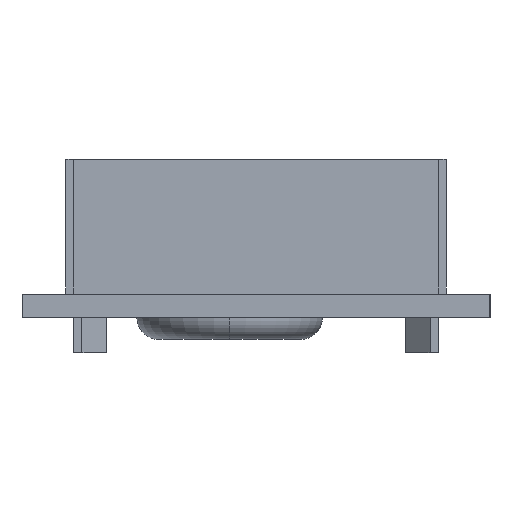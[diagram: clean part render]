
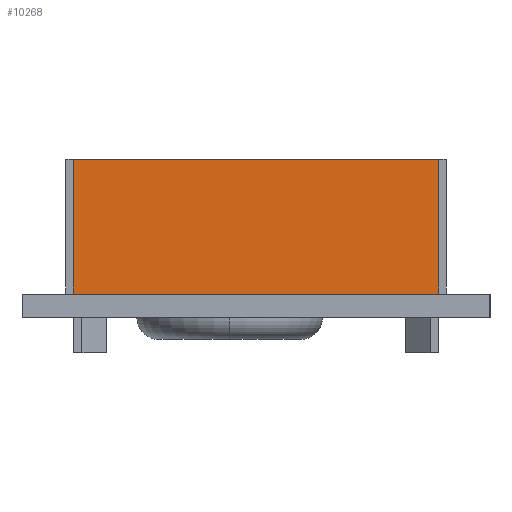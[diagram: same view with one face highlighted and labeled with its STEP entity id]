
A CAD part, left-side view. The second image highlights one B-rep face of the part: STEP entity #10268.
In plain terms, the highlighted planar face has unit normal (-1, 0, 0).
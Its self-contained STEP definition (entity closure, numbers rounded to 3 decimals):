
#2 = CARTESIAN_POINT ( 'NONE',  ( -22.1, -12.5, 0.8 ) ) ;
#246 = VECTOR ( 'NONE', #10217, 1000. ) ;
#280 = DIRECTION ( 'NONE',  ( 0., 0., -1. ) ) ;
#401 = CARTESIAN_POINT ( 'NONE',  ( -22.1, -12.5, 0.8 ) ) ;
#1028 = CARTESIAN_POINT ( 'NONE',  ( -22.1, 12.5, 10. ) ) ;
#1058 = ORIENTED_EDGE ( 'NONE', *, *, #9842, .T. ) ;
#1203 = FACE_OUTER_BOUND ( 'NONE', #5504, .T. ) ;
#1526 = VECTOR ( 'NONE', #4093, 1000. ) ;
#1812 = LINE ( 'NONE', #6805, #1526 ) ;
#2155 = VECTOR ( 'NONE', #9726, 1000. ) ;
#2164 = EDGE_CURVE ( 'NONE', #8066, #11292, #1812, .T. ) ;
#2672 = ORIENTED_EDGE ( 'NONE', *, *, #5699, .F. ) ;
#3397 = VERTEX_POINT ( 'NONE', #9503 ) ;
#3421 = AXIS2_PLACEMENT_3D ( 'NONE', #11299, #5772, #280 ) ;
#3711 = DIRECTION ( 'NONE',  ( 0., -1., 0. ) ) ;
#3823 = CARTESIAN_POINT ( 'NONE',  ( -22.1, -12.5, 10. ) ) ;
#4093 = DIRECTION ( 'NONE',  ( 0., -1., 0. ) ) ;
#4252 = CARTESIAN_POINT ( 'NONE',  ( -22.1, 12.5, 10. ) ) ;
#4821 = PLANE ( 'NONE',  #3421 ) ;
#5504 = EDGE_LOOP ( 'NONE', ( #1058, #2672, #10795, #10934 ) ) ;
#5699 = EDGE_CURVE ( 'NONE', #11292, #7489, #7258, .T. ) ;
#5772 = DIRECTION ( 'NONE',  ( 1., 0., 0. ) ) ;
#6805 = CARTESIAN_POINT ( 'NONE',  ( -22.1, -12.5, 10. ) ) ;
#6932 = LINE ( 'NONE', #2, #11545 ) ;
#7019 = LINE ( 'NONE', #4252, #2155 ) ;
#7258 = LINE ( 'NONE', #3823, #246 ) ;
#7489 = VERTEX_POINT ( 'NONE', #401 ) ;
#8066 = VERTEX_POINT ( 'NONE', #1028 ) ;
#9503 = CARTESIAN_POINT ( 'NONE',  ( -22.1, 12.5, 0.8 ) ) ;
#9726 = DIRECTION ( 'NONE',  ( 0., 0., -1. ) ) ;
#9842 = EDGE_CURVE ( 'NONE', #3397, #7489, #6932, .T. ) ;
#10217 = DIRECTION ( 'NONE',  ( 0., 0., -1. ) ) ;
#10268 = ADVANCED_FACE ( 'NONE', ( #1203 ), #4821, .F. ) ;
#10795 = ORIENTED_EDGE ( 'NONE', *, *, #2164, .F. ) ;
#10900 = EDGE_CURVE ( 'NONE', #8066, #3397, #7019, .T. ) ;
#10934 = ORIENTED_EDGE ( 'NONE', *, *, #10900, .T. ) ;
#11191 = CARTESIAN_POINT ( 'NONE',  ( -22.1, -12.5, 10. ) ) ;
#11292 = VERTEX_POINT ( 'NONE', #11191 ) ;
#11299 = CARTESIAN_POINT ( 'NONE',  ( -22.1, -12.5, 10. ) ) ;
#11545 = VECTOR ( 'NONE', #3711, 1000. ) ;
